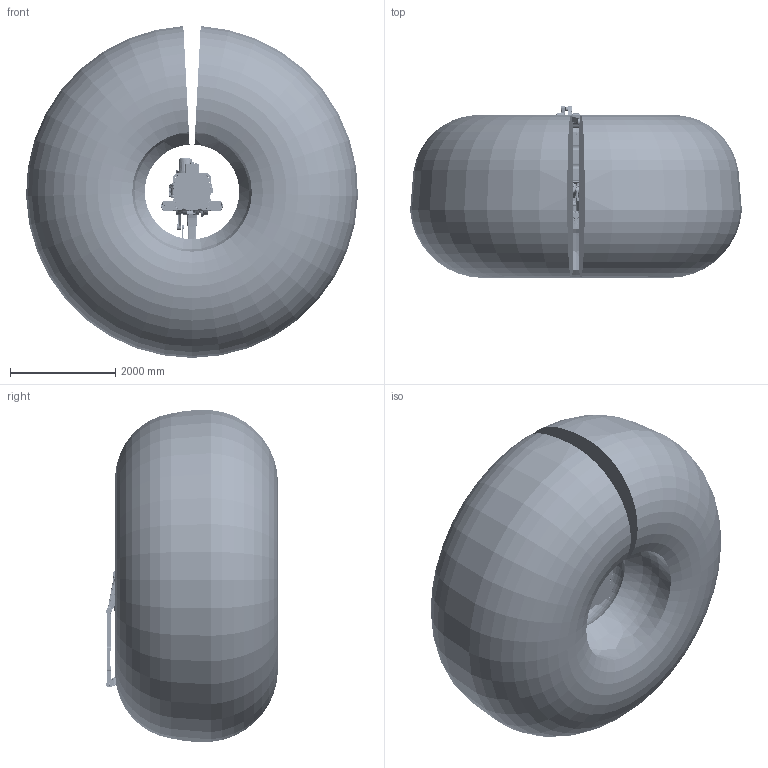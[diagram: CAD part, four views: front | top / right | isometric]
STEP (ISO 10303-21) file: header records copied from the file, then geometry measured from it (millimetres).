
FILE_DESCRIPTION((''),'2;1');
FILE_NAME('R130-3100M_ASM','2023-10-16T09:28:18',('zty'),(''),'CREO PARAMETRIC BY PTC INC, 2018260','CREO PARAMETRIC BY PTC INC, 2018260','');
FILE_SCHEMA(('CONFIG_CONTROL_DESIGN','SHAPE_APPEARANCE_LAYERS_GROUPS'));
Length unit declared in the file: millimetre
Products named in the file (15): R130-3100M_BASE; R130-3100M_JOINT1; R130-3100M_JOINT2; R130-3100M_JOINT3; R130-3100M_WRIST; R130-3100M_JOINT4; R130-3100M_PULL-ROD; R130-3100M_LINK; R130-3100M_BALANCE-CYLINDER; R130-3100M_ANGLE-BRACKET; R130-3100M_VERTICAL-ROD; R130-3100M_HORIZONTAL-ROD; R130-3100M_SHAFT; R130-3100M_RANGE; R130-3100M_ASM
Assembly tree (14 placements, depth 2):
  R130-3100M_ASM
    R130-3100M_BASE
    R130-3100M_JOINT1
    R130-3100M_JOINT2
    R130-3100M_JOINT3
    R130-3100M_WRIST
    R130-3100M_JOINT4
    R130-3100M_PULL-ROD
    R130-3100M_LINK
    R130-3100M_BALANCE-CYLINDER
    R130-3100M_ANGLE-BRACKET
    R130-3100M_VERTICAL-ROD
    R130-3100M_HORIZONTAL-ROD
    R130-3100M_SHAFT
    R130-3100M_RANGE
Bounding box: 6302.43 x 3266.19 x 6305.69 mm (x, y, z)
Volume: 69933966203.9 mm3; surface area: 134561471.9 mm2
Topology: 14 solids, 38 shells, 17449 faces, 44528 edges, 27448 vertices
Faces by surface type: cylinder 6526, plane 3898, torus 2366, cone 1976, bspline 1674, extrusion 495, sphere 407, revolution 107
Entity records: 685009 total; most frequent: CARTESIAN_POINT 243361, ORIENTED_EDGE 87386, DIRECTION 85992, EDGE_CURVE 43693, AXIS2_PLACEMENT_3D 34831, VERTEX_POINT 27448, CIRCLE 19629, EDGE_LOOP 19125
